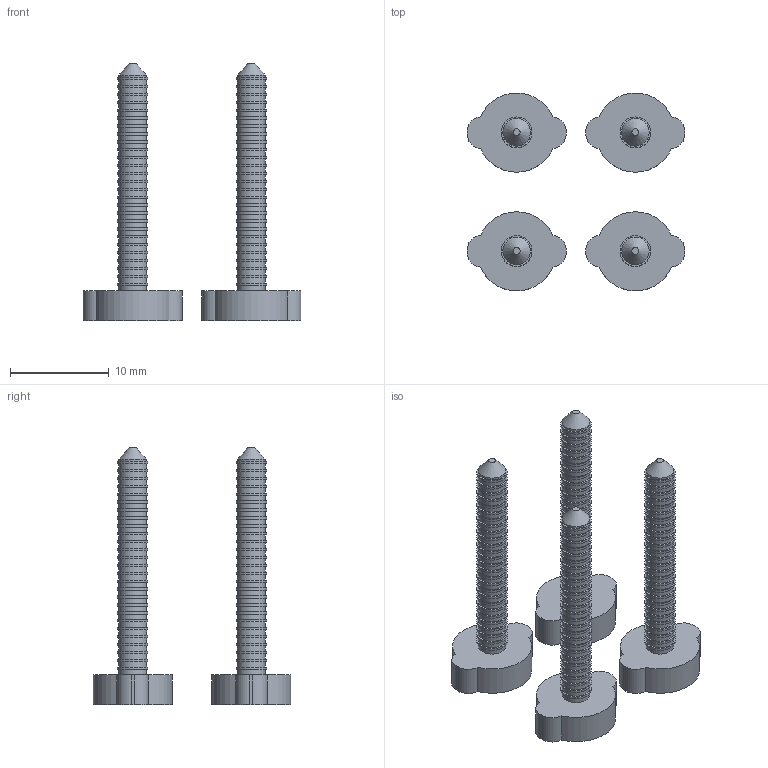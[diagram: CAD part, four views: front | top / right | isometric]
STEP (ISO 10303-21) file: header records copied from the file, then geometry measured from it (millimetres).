
FILE_DESCRIPTION(('Open CASCADE Model'),'2;1');
FILE_NAME('Open CASCADE Shape Model','2026-09-16T17:21:01',('Author'),( 'Open CASCADE'),'Open CASCADE STEP processor 7.9','Open CASCADE 7.9' ,'Unknown');
FILE_SCHEMA(('AUTOMOTIVE_DESIGN { 1 0 10303 214 1 1 1 1 }'));
Length unit declared in the file: millimetre
Products named in the file (2): Open CASCADE STEP translator 7.9 4; Open CASCADE STEP translator 7.9 4.1
Assembly tree (4 placements, depth 2):
  Open CASCADE STEP translator 7.9 4
    Open CASCADE STEP translator 7.9 4.1  x4
Bounding box: 22 x 20 x 26 mm (x, y, z)
Volume: 1252.6 mm3; surface area: 1881.9 mm2
Topology: 4 solids, 4 shells, 484 faces, 764 edges, 508 vertices
Faces by surface type: cylinder 244, plane 236, cone 4
Full cylindrical faces by diameter (mm): 2.8 x112, 3.1 x108
Entity records: 5500 total; most frequent: CARTESIAN_POINT 1183, DIRECTION 881, ORIENTED_EDGE 382, PCURVE 382, DEFINITIONAL_REPRESENTATION 382, LINE 319, VECTOR 319, AXIS2_PLACEMENT_3D 249
